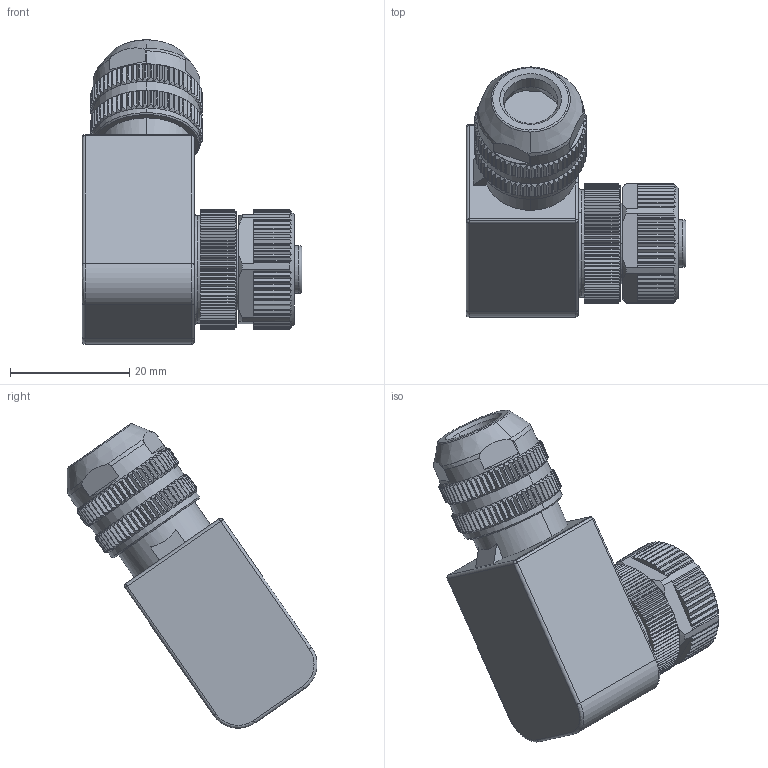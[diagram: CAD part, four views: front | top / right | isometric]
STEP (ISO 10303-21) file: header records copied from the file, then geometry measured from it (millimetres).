
FILE_DESCRIPTION (( 'STEP AP203' ), '1' );
FILE_NAME ('64F641.STEP', '2023-08-18T12:00:33', ( '' ), ( '' ), 'SwSTEP 2.0', 'SolidWorks 2016', '' );
FILE_SCHEMA (( 'CONFIG_CONTROL_DESIGN' ));
Length unit declared in the file: millimetre
Products named in the file (1): 64F641
Bounding box: 36.8 x 41.83 x 50.95 mm (x, y, z)
Volume: 19807 mm3; surface area: 9528.6 mm2
Topology: 1 solids, 7 shells, 1240 faces, 3611 edges, 2408 vertices
Faces by surface type: plane 644, cylinder 414, cone 148, bspline 34
Entity records: 80459 total; most frequent: CARTESIAN_POINT 49911, ORIENTED_EDGE 7214, DIRECTION 5319, EDGE_CURVE 3607, VERTEX_POINT 2408, AXIS2_PLACEMENT_3D 2009, B_SPLINE_CURVE_WITH_KNOTS 1492, LINE 1301
